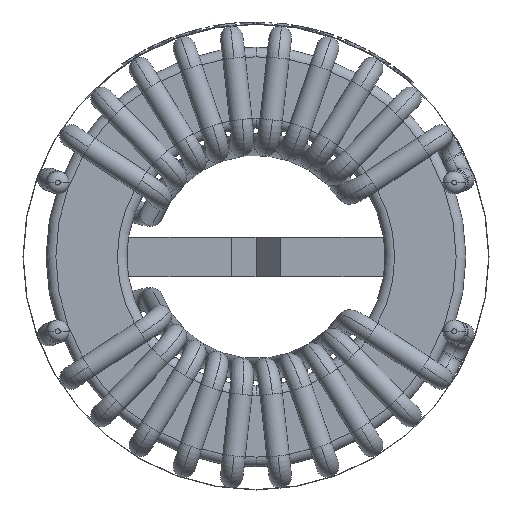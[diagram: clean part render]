
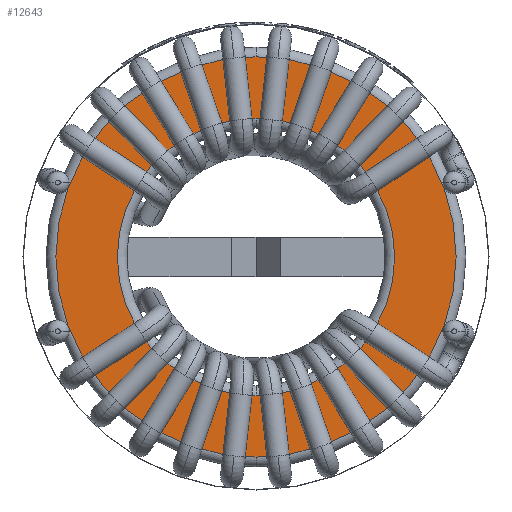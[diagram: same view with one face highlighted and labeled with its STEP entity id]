
A CAD part, front view. The second image highlights one B-rep face of the part: STEP entity #12643.
In plain terms, the highlighted planar face has unit normal (0, -1, 0).
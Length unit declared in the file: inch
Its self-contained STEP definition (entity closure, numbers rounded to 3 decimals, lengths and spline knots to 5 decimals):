
#147 = EDGE_CURVE ( 'NONE', #6649, #8698, #1504, .T. ) ;
#154 = FACE_OUTER_BOUND ( 'NONE', #6757, .T. ) ;
#316 = DIRECTION ( 'NONE',  ( 0., -1., 0. ) ) ;
#1504 = CIRCLE ( 'NONE', #14024, 0.27953 ) ;
#2512 = ORIENTED_EDGE ( 'NONE', *, *, #16320, .T. ) ;
#2544 = AXIS2_PLACEMENT_3D ( 'NONE', #11068, #316, #9918 ) ;
#2632 = VERTEX_POINT ( 'NONE', #14595 ) ;
#2827 = CARTESIAN_POINT ( 'NONE',  ( 0., -0.19094, 0. ) ) ;
#3531 = CIRCLE ( 'NONE', #5973, 0.27953 ) ;
#4146 = CARTESIAN_POINT ( 'NONE',  ( 0., -0.19094, 0. ) ) ;
#4446 = DIRECTION ( 'NONE',  ( 0., 1., 0. ) ) ;
#5973 = AXIS2_PLACEMENT_3D ( 'NONE', #2827, #4446, #11624 ) ;
#6649 = VERTEX_POINT ( 'NONE', #17626 ) ;
#6757 = EDGE_LOOP ( 'NONE', ( #13185, #12931 ) ) ;
#7715 = DIRECTION ( 'NONE',  ( 0., 0., 1. ) ) ;
#8547 = DIRECTION ( 'NONE',  ( 0., 1., 0. ) ) ;
#8698 = VERTEX_POINT ( 'NONE', #9172 ) ;
#8859 = DIRECTION ( 'NONE',  ( 0., 0., 1. ) ) ;
#9172 = CARTESIAN_POINT ( 'NONE',  ( 0., -0.19094, 0.27953 ) ) ;
#9918 = DIRECTION ( 'NONE',  ( 0., 0., 1. ) ) ;
#10510 = EDGE_CURVE ( 'NONE', #2632, #22635, #18433, .T. ) ;
#11068 = CARTESIAN_POINT ( 'NONE',  ( 0., -0.19094, 0. ) ) ;
#11624 = DIRECTION ( 'NONE',  ( 0., 0., 1. ) ) ;
#11723 = DIRECTION ( 'NONE',  ( 0., -1., 0. ) ) ;
#12181 = AXIS2_PLACEMENT_3D ( 'NONE', #22489, #8547, #7715 ) ;
#12643 = ADVANCED_FACE ( 'NONE', ( #12905, #154 ), #18488, .F. ) ;
#12905 = FACE_BOUND ( 'NONE', #14166, .T. ) ;
#12931 = ORIENTED_EDGE ( 'NONE', *, *, #10510, .T. ) ;
#13185 = ORIENTED_EDGE ( 'NONE', *, *, #16574, .T. ) ;
#14024 = AXIS2_PLACEMENT_3D ( 'NONE', #18399, #21584, #8859 ) ;
#14166 = EDGE_LOOP ( 'NONE', ( #2512, #23692 ) ) ;
#14595 = CARTESIAN_POINT ( 'NONE',  ( 0., -0.19094, -0.40354 ) ) ;
#16320 = EDGE_CURVE ( 'NONE', #8698, #6649, #3531, .T. ) ;
#16574 = EDGE_CURVE ( 'NONE', #22635, #2632, #20379, .T. ) ;
#17052 = AXIS2_PLACEMENT_3D ( 'NONE', #4146, #11723, #18100 ) ;
#17626 = CARTESIAN_POINT ( 'NONE',  ( 0., -0.19094, -0.27953 ) ) ;
#18100 = DIRECTION ( 'NONE',  ( 0., 0., 1. ) ) ;
#18399 = CARTESIAN_POINT ( 'NONE',  ( 0., -0.19094, 0. ) ) ;
#18433 = CIRCLE ( 'NONE', #2544, 0.40354 ) ;
#18488 = PLANE ( 'NONE',  #12181 ) ;
#18633 = CARTESIAN_POINT ( 'NONE',  ( 0., -0.19094, 0.40354 ) ) ;
#20379 = CIRCLE ( 'NONE', #17052, 0.40354 ) ;
#21584 = DIRECTION ( 'NONE',  ( 0., 1., 0. ) ) ;
#22489 = CARTESIAN_POINT ( 'NONE',  ( 0., -0.19094, 0. ) ) ;
#22635 = VERTEX_POINT ( 'NONE', #18633 ) ;
#23692 = ORIENTED_EDGE ( 'NONE', *, *, #147, .T. ) ;
